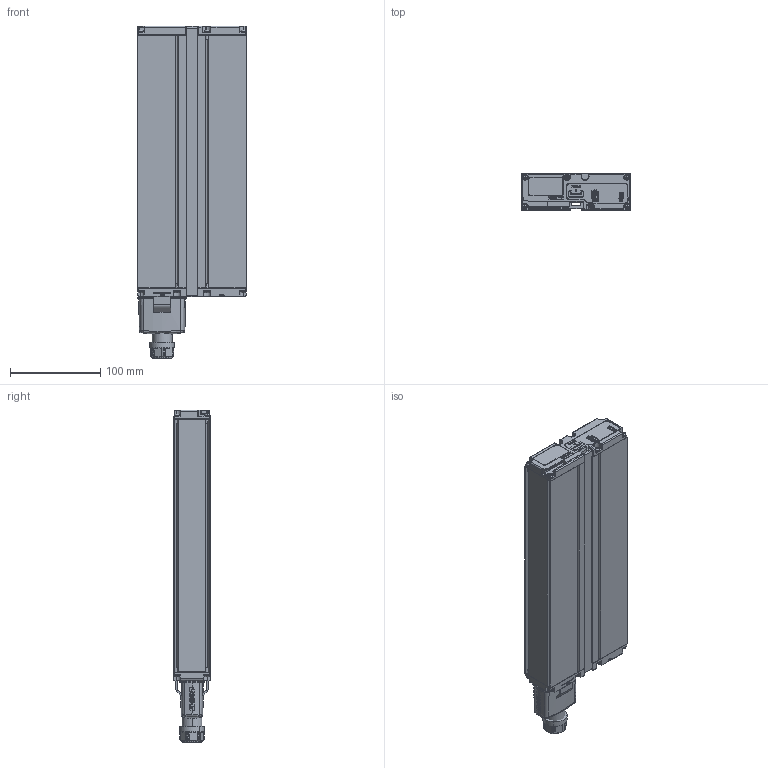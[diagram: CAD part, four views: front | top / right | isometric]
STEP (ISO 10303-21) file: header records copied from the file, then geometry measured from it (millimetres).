
FILE_DESCRIPTION (( 'STEP AP214' ), '1' );
FILE_NAME ('LIMAX2CP_2R.STEP', '2026-10-14T09:08:30', ( '' ), ( '' ), 'SwSTEP 2.0', 'SolidWorks 2024', '' );
FILE_SCHEMA (( 'AUTOMOTIVE_DESIGN' ));
Length unit declared in the file: millimetre
Products named in the file (13): LIMAX2CP_2R; Z-100748_Standard_defeature; Etikett_104x16_LIMAX-Typenschild; Z-102322_Standard_defeature; Z-102146_Standard_defeature; Linsenblechschraube ISO 14585 Stahl einsatzgehärtet   verzinkt blau_2.9x9.5; Etikett_38x19_SAIS-Label; Z-102153_Defeature; Etikett_96x45_LIMAX2CP; Z-102167_3Red; Z-102145_L = 280_defeature; Copy of DSbg 222PAn^Z-102144; Z-102147_2R_defeature
Assembly tree (25 placements, depth 2):
  LIMAX2CP_2R
    Z-102145_L = 280_defeature
    Z-102146_Standard_defeature
    Z-102147_2R_defeature
    Z-100748_Standard_defeature
    Z-102153_Defeature
    Z-102167_3Red
    Linsenblechschraube ISO 14585 Stahl einsatzgehärtet   verzinkt blau_2.9x9.5  x14
    Etikett_104x16_LIMAX-Typenschild
    Z-102322_Standard_defeature
    Copy of DSbg 222PAn^Z-102144
    Etikett_38x19_SAIS-Label
    Etikett_96x45_LIMAX2CP
Bounding box: 120 x 40.06 x 367.61 mm (x, y, z)
Volume: 1437105.3 mm3; surface area: 200434.9 mm2
Topology: 30 solids, 31 shells, 2554 faces, 6543 edges, 4075 vertices
Faces by surface type: plane 884, cylinder 717, bspline 501, cone 223, torus 186, sphere 43
Entity records: 102735 total; most frequent: CARTESIAN_POINT 44903, ORIENTED_EDGE 10592, DIRECTION 8265, EDGE_CURVE 5296, VERTEX_POINT 3355, VECTOR 2973, LINE 2973, AXIS2_PLACEMENT_3D 2646
